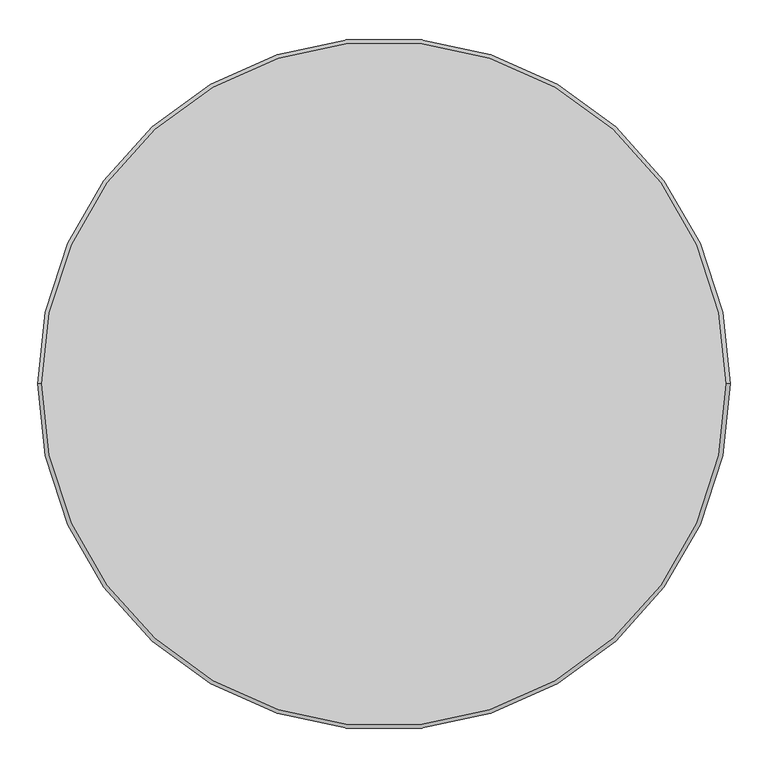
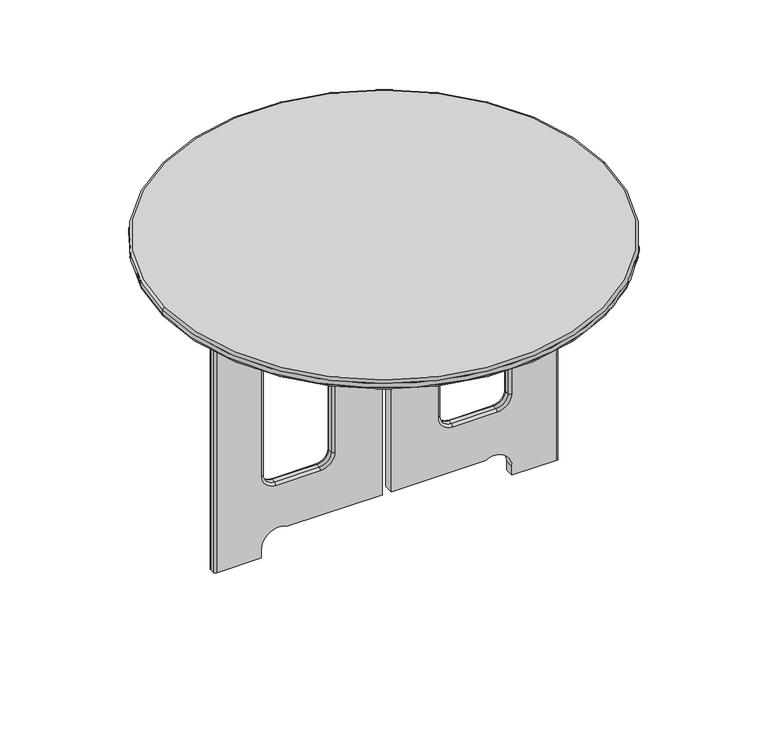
"""IFC4 building model written with IfcOpenShell, lengths in millimetres: furniture geometry, SSL-Childcraft_Outdoor-Table-Round : 2161364."""

from ifc_helpers import new_model, si_unit, point, frame, origin, origin_with_axes, place, context, project, spatial, polyline, circle_curve, ellipse_curve, trimmed, source, transform, mapped, element, save
from ifc_brep_helpers import plane_surface, cylinder_surface, revolved_surface, advanced_brep


def furniture_094c6500(model_context):
    return source(origin(), model_context, "Body", "AdvancedBrep", [
        advanced_brep(
        [(-350.8375, 9.525, 590.55), (-355.6, 4.7625, 590.55), (-355.6, -4.7625, 590.55), (-350.8375, -9.525, 590.55), (-285.7500064, -9.525, 590.55), (-285.7500064, 9.525, 590.55), (350.8375, -9.525, 590.55), (355.6, -4.7625, 590.55), (355.6, 4.7625, 590.55), (350.8375, 9.525, 590.55), (285.7499947, 9.525, 590.55), (285.7499947, -9.525, 590.55), (-350.8375, -9.525, 0.0), (-355.6, -4.7625, 0.0), (-355.6, 4.7625, 0.0), (-350.8375, 9.525, 0.0), (-258.7625, 9.525, 0.0), (-258.7625, -9.525, 0.0), (350.8375, 9.525, 0.0), (355.6, 4.7625, 0.0), (355.6, -4.7625, 0.0), (350.8375, -9.525, 0.0), (258.7625, -9.525, 0.0), (258.7625, 9.525, 0.0), (-266.6999968, 9.525, 571.499954), (266.7, 9.525, 571.499954), (258.7625, 9.525, 19.0499717), (204.219466, 9.525, 50.7999717), (9.525, 9.525, 50.7999717), (9.525, 9.525, 301.6249575), (-9.525, 9.525, 301.6249575), (-9.525, 9.525, 50.7999717), (-204.219466, 9.525, 50.7999717), (-258.7625, 9.525, 19.0499717), (-107.1562606, 9.525, 463.5499433), (-136.5250106, 9.525, 492.9186933), (-228.5873106, 9.525, 492.9186933), (-257.9687606, 9.525, 463.5372433), (-257.9687606, 9.525, 177.7999717), (-228.6000106, 9.525, 148.4312217), (-136.5250106, 9.525, 148.4312217), (-107.1562606, 9.525, 177.7999717), (257.9687606, 9.525, 463.5372433), (228.5873106, 9.525, 492.9186933), (136.5250106, 9.525, 492.9186933), (107.1562606, 9.525, 463.5499433), (107.1562606, 9.525, 177.7999717), (136.5250106, 9.525, 148.4312217), (228.6000106, 9.525, 148.4312217), (257.9687606, 9.525, 177.7999717), (-258.7625, -9.525, 19.0499717), (-204.219466, -9.525, 50.7999717), (-9.525, -9.525, 50.7999717), (-9.525, -9.525, 301.6249575), (9.525, -9.525, 301.6249575), (9.525, -9.525, 50.7999717), (204.219466, -9.525, 50.7999717), (258.7625, -9.525, 19.0499717), (266.7, -9.525, 571.499954), (-266.6999968, -9.525, 571.499954), (-136.5250106, -9.525, 492.9186933), (-107.1562606, -9.525, 463.5499433), (-107.1562606, -9.525, 177.7999717), (-136.5250106, -9.525, 148.4312217), (-228.6000106, -9.525, 148.4312217), (-257.9687606, -9.525, 177.7999717), (-257.9687606, -9.525, 463.5372433), (-228.5873106, -9.525, 492.9186933), (228.5873106, -9.525, 492.9186933), (257.9687606, -9.525, 463.5372433), (257.9687606, -9.525, 177.7999717), (228.6000106, -9.525, 148.4312217), (136.5250106, -9.525, 148.4312217), (107.1562606, -9.525, 177.7999717), (107.1562606, -9.525, 463.5499433), (136.5250106, -9.525, 492.9186933), (-111.9187606, 4.7625, 463.5499433), (-136.5250106, 4.7625, 488.1561933), (-111.9187606, -4.7625, 463.5499433), (-136.5250106, -4.7625, 488.1561933), (-111.9187606, 4.7625, 177.7999717), (-111.9187606, -4.7625, 177.7999717), (-136.5250106, 4.7625, 153.1937217), (-136.5250106, -4.7625, 153.1937217), (-228.6000106, 4.7625, 153.1937217), (-228.6000106, -4.7625, 153.1937217), (-253.2062606, 4.7625, 177.7999717), (-253.2062606, -4.7625, 177.7999717), (-253.2062606, 4.7625, 463.5372433), (-253.2062606, -4.7625, 463.5372433), (-228.5873106, 4.7625, 488.1561933), (-228.5873106, -4.7625, 488.1561933), (253.2062606, 4.7625, 463.5372433), (228.5873106, 4.7625, 488.1561933), (253.2062606, -4.7625, 463.5372433), (228.5873106, -4.7625, 488.1561933), (253.2062606, 4.7625, 177.7999717), (253.2062606, -4.7625, 177.7999717), (228.6000106, 4.7625, 153.1937217), (228.6000106, -4.7625, 153.1937217), (136.5250106, 4.7625, 153.1937217), (136.5250106, -4.7625, 153.1937217), (111.9187606, 4.7625, 177.7999717), (111.9187606, -4.7625, 177.7999717), (111.9187606, 4.7625, 463.5499433), (111.9187606, -4.7625, 463.5499433), (136.5250106, 4.7625, 488.1561933), (136.5250106, -4.7625, 488.1561933)],
        [
            (0, 1, circle_curve(frame((-350.8375, 4.7625, 590.55), z_axis=(0.0, 0.0, 1.0), x_axis=(1.0, 0.0, 0.0)), 4.7625)),
            (1, 2),
            (2, 3, circle_curve(frame((-350.8375, -4.7625, 590.55), z_axis=(0.0, 0.0, 1.0), x_axis=(1.0, 0.0, 0.0)), 4.7625)),
            (3, 4),
            (4, 5),
            (5, 0),
            (6, 7, circle_curve(frame((350.8375, -4.7625, 590.55), z_axis=(0.0, 0.0, 1.0), x_axis=(1.0, 0.0, 0.0)), 4.7625)),
            (7, 8),
            (8, 9, circle_curve(frame((350.8375, 4.7625, 590.55), z_axis=(0.0, 0.0, 1.0), x_axis=(1.0, 0.0, 0.0)), 4.7625)),
            (9, 10),
            (10, 11),
            (11, 6),
            (12, 13, circle_curve(frame((-350.8375, -4.7625, 0.0), z_axis=(0.0, 0.0, -1.0), x_axis=(1.0, 0.0, 0.0)), 4.7625)),
            (13, 14),
            (14, 15, circle_curve(frame((-350.8375, 4.7625, 0.0), z_axis=(0.0, 0.0, -1.0), x_axis=(1.0, 0.0, 0.0)), 4.7625)),
            (15, 16),
            (16, 17),
            (17, 12),
            (18, 19, circle_curve(frame((350.8375, 4.7625, 0.0), z_axis=(0.0, 0.0, -1.0), x_axis=(1.0, 0.0, 0.0)), 4.7625)),
            (19, 20),
            (20, 21, circle_curve(frame((350.8375, -4.7625, 0.0), z_axis=(0.0, 0.0, -1.0), x_axis=(1.0, 0.0, 0.0)), 4.7625)),
            (21, 22),
            (22, 23),
            (23, 18),
            (15, 0),
            (5, 24, circle_curve(frame((-266.6999968, 9.525, 590.5499636), z_axis=(0.0, -1.0, 0.0), x_axis=(1.0, 0.0, 0.0)), 19.0500096)),
            (24, 25),
            (25, 10, circle_curve(frame((266.7, 9.525, 590.5499487), z_axis=(0.0, -1.0, 0.0), x_axis=(1.0, 0.0, 0.0)), 19.0499947)),
            (9, 18),
            (23, 26),
            (26, 27, circle_curve(frame((222.25, 9.525, 19.0499717), z_axis=(0.0, -1.0, 0.0), x_axis=(1.0, 0.0, 0.0)), 36.5125)),
            (27, 28),
            (28, 29),
            (29, 30),
            (30, 31),
            (31, 32),
            (32, 33, circle_curve(frame((-222.25, 9.525, 19.0499717), z_axis=(0.0, -1.0, 0.0), x_axis=(1.0, 0.0, 0.0)), 36.5125)),
            (33, 16),
            (34, 35, circle_curve(frame((-136.5250106, 9.525, 463.5499433), z_axis=(0.0, -1.0, 0.0), x_axis=(0.0, 0.0, 1.0)), 29.36875)),
            (35, 36),
            (36, 37, circle_curve(frame((-228.5873106, 9.525, 463.5372433), z_axis=(0.0, -1.0, 0.0), x_axis=(-1.0, 0.0, 0.0)), 29.38145)),
            (37, 38),
            (38, 39, circle_curve(frame((-228.6000106, 9.525, 177.7999717), z_axis=(0.0, -1.0, 0.0), x_axis=(0.0, 0.0, -1.0)), 29.36875)),
            (39, 40),
            (40, 41, circle_curve(frame((-136.5250106, 9.525, 177.7999717), z_axis=(0.0, -1.0, 0.0), x_axis=(1.0, 0.0, 0.0)), 29.36875)),
            (41, 34),
            (42, 43, circle_curve(frame((228.5873106, 9.525, 463.5372433), z_axis=(0.0, -1.0, 0.0), x_axis=(0.0, 0.0, 1.0)), 29.38145)),
            (43, 44),
            (44, 45, circle_curve(frame((136.5250106, 9.525, 463.5499433), z_axis=(0.0, -1.0, 0.0), x_axis=(-1.0, 0.0, 0.0)), 29.36875)),
            (45, 46),
            (46, 47, circle_curve(frame((136.5250106, 9.525, 177.7999717), z_axis=(0.0, -1.0, 0.0), x_axis=(0.0, 0.0, -1.0)), 29.36875)),
            (47, 48),
            (48, 49, circle_curve(frame((228.6000106, 9.525, 177.7999717), z_axis=(0.0, -1.0, 0.0), x_axis=(1.0, 0.0, 0.0)), 29.36875)),
            (49, 42),
            (14, 1),
            (13, 2),
            (12, 3),
            (17, 50),
            (50, 51, circle_curve(frame((-222.25, -9.525, 19.0499717), z_axis=(0.0, 1.0, 0.0), x_axis=(1.0, 0.0, 0.0)), 36.5125)),
            (51, 52),
            (52, 53),
            (53, 54),
            (54, 55),
            (55, 56),
            (56, 57, circle_curve(frame((222.25, -9.525, 19.0499717), z_axis=(0.0, 1.0, 0.0), x_axis=(1.0, 0.0, 0.0)), 36.5125)),
            (57, 22),
            (21, 6),
            (11, 58, circle_curve(frame((266.7, -9.525, 590.5499487), z_axis=(0.0, 1.0, 0.0), x_axis=(1.0, 0.0, 0.0)), 19.0499947)),
            (58, 59),
            (59, 4, circle_curve(frame((-266.6999968, -9.525, 590.5499636), z_axis=(0.0, 1.0, 0.0), x_axis=(1.0, 0.0, 0.0)), 19.0500096)),
            (60, 61, circle_curve(frame((-136.5250106, -9.525, 463.5499433), z_axis=(0.0, 1.0, 0.0), x_axis=(0.0, 0.0, 1.0)), 29.36875)),
            (61, 62),
            (62, 63, circle_curve(frame((-136.5250106, -9.525, 177.7999717), z_axis=(0.0, 1.0, 0.0), x_axis=(1.0, 0.0, 0.0)), 29.36875)),
            (63, 64),
            (64, 65, circle_curve(frame((-228.6000106, -9.525, 177.7999717), z_axis=(0.0, 1.0, 0.0), x_axis=(0.0, 0.0, -1.0)), 29.36875)),
            (65, 66),
            (66, 67, circle_curve(frame((-228.5873106, -9.525, 463.5372433), z_axis=(0.0, 1.0, 0.0), x_axis=(-1.0, 0.0, 0.0)), 29.38145)),
            (67, 60),
            (68, 69, circle_curve(frame((228.5873106, -9.525, 463.5372433), z_axis=(0.0, 1.0, 0.0), x_axis=(0.0, 0.0, 1.0)), 29.38145)),
            (69, 70),
            (70, 71, circle_curve(frame((228.6000106, -9.525, 177.7999717), z_axis=(0.0, 1.0, 0.0), x_axis=(1.0, 0.0, 0.0)), 29.36875)),
            (71, 72),
            (72, 73, circle_curve(frame((136.5250106, -9.525, 177.7999717), z_axis=(0.0, 1.0, 0.0), x_axis=(0.0, 0.0, -1.0)), 29.36875)),
            (73, 74),
            (74, 75, circle_curve(frame((136.5250106, -9.525, 463.5499433), z_axis=(0.0, 1.0, 0.0), x_axis=(-1.0, 0.0, 0.0)), 29.36875)),
            (75, 68),
            (20, 7),
            (19, 8),
            (51, 32),
            (31, 52),
            (30, 53),
            (29, 54),
            (28, 55),
            (27, 56),
            (25, 58),
            (24, 59),
            (26, 57),
            (33, 50),
            (76, 77, circle_curve(frame((-136.5250106, 4.7625, 463.5499433), z_axis=(0.0, -1.0, 0.0), x_axis=(0.0, 0.0, 1.0)), 24.60625)),
            (77, 35, circle_curve(frame((-136.5250106, 4.7625, 492.9186933), z_axis=(1.0, 0.0, 0.0), x_axis=(0.0, 0.0, 1.0)), 4.7625)),
            (34, 76, circle_curve(frame((-107.1562606, 4.7625, 463.5499433), z_axis=(0.0, 0.0, 1.0), x_axis=(1.0, 0.0, 0.0)), 4.7625)),
            (76, 78),
            (78, 79, circle_curve(frame((-136.5250106, -4.7625, 463.5499433), z_axis=(0.0, -1.0, 0.0), x_axis=(0.0, 0.0, 1.0)), 24.60625)),
            (79, 77),
            (78, 61, circle_curve(frame((-107.1562606, -4.7625, 463.5499433), z_axis=(0.0, 0.0, 1.0), x_axis=(1.0, 0.0, 0.0)), 4.7625)),
            (60, 79, circle_curve(frame((-136.5250106, -4.7625, 492.9186933), z_axis=(1.0, 0.0, 0.0), x_axis=(0.0, 0.0, 1.0)), 4.7625)),
            (41, 80, circle_curve(frame((-107.1562606, 4.7625, 177.7999717), z_axis=(0.0, 0.0, 1.0), x_axis=(1.0, 0.0, 0.0)), 4.7625)),
            (80, 76),
            (80, 81),
            (81, 78),
            (81, 62, circle_curve(frame((-107.1562606, -4.7625, 177.7999717), z_axis=(0.0, 0.0, 1.0), x_axis=(1.0, 0.0, 0.0)), 4.7625)),
            (40, 82, circle_curve(frame((-136.5250106, 4.7625, 148.4312217), z_axis=(1.0, 0.0, 0.0), x_axis=(0.0, 0.0, -1.0)), 4.7625)),
            (82, 80, circle_curve(frame((-136.5250106, 4.7625, 177.7999717), z_axis=(0.0, -1.0, 0.0), x_axis=(1.0, 0.0, 0.0)), 24.60625)),
            (82, 83),
            (83, 81, circle_curve(frame((-136.5250106, -4.7625, 177.7999717), z_axis=(0.0, -1.0, 0.0), x_axis=(1.0, 0.0, 0.0)), 24.60625)),
            (83, 63, circle_curve(frame((-136.5250106, -4.7625, 148.4312217), z_axis=(1.0, 0.0, 0.0), x_axis=(0.0, 0.0, -1.0)), 4.7625)),
            (39, 84, circle_curve(frame((-228.6000106, 4.7625, 148.4312217), z_axis=(1.0, 0.0, 0.0), x_axis=(0.0, 0.0, -1.0)), 4.7625)),
            (84, 82),
            (84, 85),
            (85, 83),
            (85, 64, circle_curve(frame((-228.6000106, -4.7625, 148.4312217), z_axis=(1.0, 0.0, 0.0), x_axis=(0.0, 0.0, -1.0)), 4.7625)),
            (38, 86, circle_curve(frame((-257.9687606, 4.7625, 177.7999717), z_axis=(0.0, 0.0, -1.0), x_axis=(-1.0, 0.0, 0.0)), 4.7625)),
            (86, 84, circle_curve(frame((-228.6000106, 4.7625, 177.7999717), z_axis=(0.0, -1.0, 0.0), x_axis=(0.0, 0.0, -1.0)), 24.60625)),
            (86, 87),
            (87, 85, circle_curve(frame((-228.6000106, -4.7625, 177.7999717), z_axis=(0.0, -1.0, 0.0), x_axis=(0.0, 0.0, -1.0)), 24.60625)),
            (87, 65, circle_curve(frame((-257.9687606, -4.7625, 177.7999717), z_axis=(0.0, 0.0, -1.0), x_axis=(-1.0, 0.0, 0.0)), 4.7625)),
            (37, 88, circle_curve(frame((-257.9687606, 4.7625, 463.5372433), z_axis=(0.0, 0.0, -1.0), x_axis=(-1.0, 0.0, 0.0)), 4.7625)),
            (88, 86),
            (88, 89),
            (89, 87),
            (89, 66, circle_curve(frame((-257.9687606, -4.7625, 463.5372433), z_axis=(0.0, 0.0, -1.0), x_axis=(-1.0, 0.0, 0.0)), 4.7625)),
            (36, 90, circle_curve(frame((-228.5873106, 4.7625, 492.9186933), z_axis=(-1.0, 0.0, 0.0), x_axis=(0.0, 0.0, 1.0)), 4.7625)),
            (90, 88, circle_curve(frame((-228.5873106, 4.7625, 463.5372433), z_axis=(0.0, -1.0, 0.0), x_axis=(-1.0, 0.0, 0.0)), 24.61895)),
            (90, 91),
            (91, 89, circle_curve(frame((-228.5873106, -4.7625, 463.5372433), z_axis=(0.0, -1.0, 0.0), x_axis=(-1.0, 0.0, 0.0)), 24.61895)),
            (91, 67, circle_curve(frame((-228.5873106, -4.7625, 492.9186933), z_axis=(-1.0, 0.0, 0.0), x_axis=(0.0, 0.0, 1.0)), 4.7625)),
            (77, 90),
            (79, 91),
            (92, 93, circle_curve(frame((228.5873106, 4.7625, 463.5372433), z_axis=(0.0, -1.0, 0.0), x_axis=(0.0, 0.0, 1.0)), 24.61895)),
            (93, 43, circle_curve(frame((228.5873106, 4.7625, 492.9186933), z_axis=(1.0, 0.0, 0.0), x_axis=(0.0, 0.0, 1.0)), 4.7625)),
            (42, 92, circle_curve(frame((257.9687606, 4.7625, 463.5372433), z_axis=(0.0, 0.0, 1.0), x_axis=(1.0, 0.0, 0.0)), 4.7625)),
            (92, 94),
            (94, 95, circle_curve(frame((228.5873106, -4.7625, 463.5372433), z_axis=(0.0, -1.0, 0.0), x_axis=(0.0, 0.0, 1.0)), 24.61895)),
            (95, 93),
            (94, 69, circle_curve(frame((257.9687606, -4.7625, 463.5372433), z_axis=(0.0, 0.0, 1.0), x_axis=(1.0, 0.0, 0.0)), 4.7625)),
            (68, 95, circle_curve(frame((228.5873106, -4.7625, 492.9186933), z_axis=(1.0, 0.0, 0.0), x_axis=(0.0, 0.0, 1.0)), 4.7625)),
            (49, 96, circle_curve(frame((257.9687606, 4.7625, 177.7999717), z_axis=(0.0, 0.0, 1.0), x_axis=(1.0, 0.0, 0.0)), 4.7625)),
            (96, 92),
            (96, 97),
            (97, 94),
            (97, 70, circle_curve(frame((257.9687606, -4.7625, 177.7999717), z_axis=(0.0, 0.0, 1.0), x_axis=(1.0, 0.0, 0.0)), 4.7625)),
            (48, 98, circle_curve(frame((228.6000106, 4.7625, 148.4312217), z_axis=(1.0, 0.0, 0.0), x_axis=(0.0, 0.0, -1.0)), 4.7625)),
            (98, 96, circle_curve(frame((228.6000106, 4.7625, 177.7999717), z_axis=(0.0, -1.0, 0.0), x_axis=(1.0, 0.0, 0.0)), 24.60625)),
            (98, 99),
            (99, 97, circle_curve(frame((228.6000106, -4.7625, 177.7999717), z_axis=(0.0, -1.0, 0.0), x_axis=(1.0, 0.0, 0.0)), 24.60625)),
            (99, 71, circle_curve(frame((228.6000106, -4.7625, 148.4312217), z_axis=(1.0, 0.0, 0.0), x_axis=(0.0, 0.0, -1.0)), 4.7625)),
            (47, 100, circle_curve(frame((136.5250106, 4.7625, 148.4312217), z_axis=(1.0, 0.0, 0.0), x_axis=(0.0, 0.0, -1.0)), 4.7625)),
            (100, 98),
            (100, 101),
            (101, 99),
            (101, 72, circle_curve(frame((136.5250106, -4.7625, 148.4312217), z_axis=(1.0, 0.0, 0.0), x_axis=(0.0, 0.0, -1.0)), 4.7625)),
            (46, 102, circle_curve(frame((107.1562606, 4.7625, 177.7999717), z_axis=(0.0, 0.0, -1.0), x_axis=(-1.0, 0.0, 0.0)), 4.7625)),
            (102, 100, circle_curve(frame((136.5250106, 4.7625, 177.7999717), z_axis=(0.0, -1.0, 0.0), x_axis=(0.0, 0.0, -1.0)), 24.60625)),
            (102, 103),
            (103, 101, circle_curve(frame((136.5250106, -4.7625, 177.7999717), z_axis=(0.0, -1.0, 0.0), x_axis=(0.0, 0.0, -1.0)), 24.60625)),
            (103, 73, circle_curve(frame((107.1562606, -4.7625, 177.7999717), z_axis=(0.0, 0.0, -1.0), x_axis=(-1.0, 0.0, 0.0)), 4.7625)),
            (45, 104, circle_curve(frame((107.1562606, 4.7625, 463.5499433), z_axis=(0.0, 0.0, -1.0), x_axis=(-1.0, 0.0, 0.0)), 4.7625)),
            (104, 102),
            (104, 105),
            (105, 103),
            (105, 74, circle_curve(frame((107.1562606, -4.7625, 463.5499433), z_axis=(0.0, 0.0, -1.0), x_axis=(-1.0, 0.0, 0.0)), 4.7625)),
            (44, 106, circle_curve(frame((136.5250106, 4.7625, 492.9186933), z_axis=(-1.0, 0.0, 0.0), x_axis=(0.0, 0.0, 1.0)), 4.7625)),
            (106, 104, circle_curve(frame((136.5250106, 4.7625, 463.5499433), z_axis=(0.0, -1.0, 0.0), x_axis=(-1.0, 0.0, 0.0)), 24.60625)),
            (106, 107),
            (107, 105, circle_curve(frame((136.5250106, -4.7625, 463.5499433), z_axis=(0.0, -1.0, 0.0), x_axis=(-1.0, 0.0, 0.0)), 24.60625)),
            (107, 75, circle_curve(frame((136.5250106, -4.7625, 492.9186933), z_axis=(-1.0, 0.0, 0.0), x_axis=(0.0, 0.0, 1.0)), 4.7625)),
            (93, 106),
            (95, 107),
        ],
        [
            plane_surface(frame((-350.8375, 9.525, 590.55), z_axis=(0.0, 0.0, 1.0), x_axis=(-1.0, 0.0, 0.0))),
            plane_surface(frame((-350.8375, 9.525, 0.0), z_axis=(0.0, 0.0, -1.0), x_axis=(1.0, 0.0, 0.0))),
            plane_surface(frame((-350.04375, 9.525, 590.55), z_axis=(0.0, 1.0, 0.0), x_axis=(0.0, 0.0, -1.0))),
            cylinder_surface(frame((-350.8375, 4.7625, 0.0), z_axis=(0.0, 0.0, 1.0), x_axis=(1.0, 0.0, 0.0)), 4.7625),
            plane_surface(frame((-355.6, 4.7625, 590.55), z_axis=(-1.0, 0.0, 0.0), x_axis=(0.0, 0.0, -1.0))),
            cylinder_surface(frame((-350.8375, -4.7625, 0.0), z_axis=(0.0, 0.0, 1.0), x_axis=(1.0, 0.0, 0.0)), 4.7625),
            plane_surface(frame((-350.8375, -9.525, 590.55), z_axis=(0.0, -1.0, 0.0), x_axis=(0.0, 0.0, -1.0))),
            cylinder_surface(frame((350.8375, -4.7625, 0.0), z_axis=(0.0, 0.0, 1.0), x_axis=(1.0, 0.0, 0.0)), 4.7625),
            plane_surface(frame((355.6, -4.7625, 590.55), z_axis=(1.0, 0.0, 0.0), x_axis=(0.0, 0.0, -1.0))),
            cylinder_surface(frame((350.8375, 4.7625, 0.0), z_axis=(0.0, 0.0, 1.0), x_axis=(1.0, 0.0, 0.0)), 4.7625),
            plane_surface(frame((-204.219466, -9.525, 50.7999717), z_axis=(0.0, 0.0, -1.0), x_axis=(0.0, 1.0, 0.0))),
            plane_surface(frame((-9.525, -9.525, 50.7999717), z_axis=(1.0, 0.0, 0.0), x_axis=(0.0, 1.0, 0.0))),
            plane_surface(frame((-9.525, -9.525, 301.6249575), z_axis=(0.0, 0.0, -1.0), x_axis=(0.0, 1.0, 0.0))),
            plane_surface(frame((9.525, -9.525, 301.6249575), z_axis=(-1.0, 0.0, 0.0), x_axis=(0.0, 1.0, 0.0))),
            plane_surface(frame((9.525, -9.525, 50.7999717), z_axis=(0.0, 0.0, -1.0), x_axis=(0.0, 1.0, 0.0))),
            revolved_surface(polyline([(285.7499947, 9.525, 590.5499487), (285.7499947, -9.525, 590.5499487)]), (266.7, 9.525, 590.5499487), (0.0, 1.0, 0.0)),
            plane_surface(frame((266.7, -9.525, 571.499954), z_axis=(0.0, 0.0, 1.0), x_axis=(0.0, 1.0, 0.0))),
            revolved_surface(polyline([(-247.6499872, 9.525, 590.5499636), (-247.6499872, -9.525, 590.5499636)]), (-266.6999968, 9.525, 590.5499636), (0.0, 1.0, 0.0)),
            revolved_surface(polyline([(258.7625, 9.525, 19.0499717), (258.7625, -9.525, 19.0499717)]), (222.25, 9.525, 19.0499717), (0.0, 1.0, 0.0)),
            plane_surface(frame((258.7625, -9.525, 19.0499717), z_axis=(-1.0, 0.0, -1.3837485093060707e-10), x_axis=(0.0, 1.0, 0.0))),
            plane_surface(frame((-258.7625, -9.525, 0.0), z_axis=(1.0, 0.0, 0.0), x_axis=(0.0, 1.0, 0.0))),
            revolved_surface(polyline([(-185.7375, 9.525, 19.0499717), (-185.7375, -9.525, 19.0499717)]), (-222.25, 9.525, 19.0499717), (0.0, 1.0, 0.0)),
            revolved_surface(trimmed(ellipse_curve(frame((-136.5250106, 4.7625, 492.9186933), z_axis=(-1.0, 0.0, 0.0), x_axis=(0.0, 0.0, 1.0)), 4.7625, 4.7625), [point((-136.5250106, 9.525, 492.9186933))], [point((-136.5250106, 4.7625, 488.1561933))], True, "CARTESIAN"), (-136.5250106, 0.0, 463.5499433), (0.0, 1.0, 0.0)),
            revolved_surface(polyline([(-136.5250106, 4.7625, 488.1561933), (-136.5250106, -4.7625, 488.1561933)]), (-136.5250106, 0.0, 463.5499433), (0.0, 1.0, 0.0)),
            revolved_surface(trimmed(ellipse_curve(frame((-136.5250106, -4.7625, 492.9186933), z_axis=(-1.0, 0.0, 0.0), x_axis=(0.0, 0.0, 1.0)), 4.7625, 4.7625), [point((-136.5250106, -4.7625, 488.1561933))], [point((-136.5250106, -9.525, 492.9186933))], True, "CARTESIAN"), (-136.5250106, 0.0, 463.5499433), (0.0, 1.0, 0.0)),
            cylinder_surface(frame((-107.1562606, 4.7625, 463.5499433), z_axis=(0.0, 0.0, 1.0), x_axis=(1.0, 0.0, 0.0)), 4.7625),
            plane_surface(frame((-111.9187606, 4.7625, 463.5499433), z_axis=(-1.0, 0.0, 0.0), x_axis=(0.0, 0.0, -1.0))),
            cylinder_surface(frame((-107.1562606, -4.7625, 463.5499433), z_axis=(0.0, 0.0, 1.0), x_axis=(1.0, 0.0, 0.0)), 4.7625),
            revolved_surface(trimmed(ellipse_curve(frame((-107.1562606, 4.7625, 177.7999717), z_axis=(0.0, 0.0, 1.0), x_axis=(1.0, 0.0, 0.0)), 4.7625, 4.7625), [point((-107.1562606, 9.525, 177.7999717))], [point((-111.9187606, 4.7625, 177.7999717))], True, "CARTESIAN"), (-136.5250106, 0.0, 177.7999717), (0.0, 1.0, 0.0)),
            revolved_surface(polyline([(-111.9187606, 4.7625, 177.7999717), (-111.9187606, -4.7625, 177.7999717)]), (-136.5250106, 0.0, 177.7999717), (0.0, 1.0, 0.0)),
            revolved_surface(trimmed(ellipse_curve(frame((-107.1562606, -4.7625, 177.7999717), z_axis=(0.0, 0.0, 1.0), x_axis=(1.0, 0.0, 0.0)), 4.7625, 4.7625), [point((-111.9187606, -4.7625, 177.7999717))], [point((-107.1562606, -9.525, 177.7999717))], True, "CARTESIAN"), (-136.5250106, 0.0, 177.7999717), (0.0, 1.0, 0.0)),
            cylinder_surface(frame((-136.5250106, 4.7625, 148.4312217), z_axis=(1.0, 0.0, 0.0), x_axis=(0.0, 0.0, -1.0)), 4.7625),
            plane_surface(frame((-136.5250106, 4.7625, 153.1937217), z_axis=(0.0, 0.0, 1.0), x_axis=(-1.0, 0.0, 0.0))),
            cylinder_surface(frame((-136.5250106, -4.7625, 148.4312217), z_axis=(1.0, 0.0, 0.0), x_axis=(0.0, 0.0, -1.0)), 4.7625),
            revolved_surface(trimmed(ellipse_curve(frame((-228.6000106, 4.7625, 148.4312217), z_axis=(1.0, 0.0, 0.0), x_axis=(0.0, 0.0, -1.0)), 4.7625, 4.7625), [point((-228.6000106, 9.525, 148.4312217))], [point((-228.6000106, 4.7625, 153.1937217))], True, "CARTESIAN"), (-228.6000106, 0.0, 177.7999717), (0.0, 1.0, 0.0)),
            revolved_surface(polyline([(-228.6000106, 4.7625, 153.1937217), (-228.6000106, -4.7625, 153.1937217)]), (-228.6000106, 0.0, 177.7999717), (0.0, 1.0, 0.0)),
            revolved_surface(trimmed(ellipse_curve(frame((-228.6000106, -4.7625, 148.4312217), z_axis=(1.0, 0.0, 0.0), x_axis=(0.0, 0.0, -1.0)), 4.7625, 4.7625), [point((-228.6000106, -4.7625, 153.1937217))], [point((-228.6000106, -9.525, 148.4312217))], True, "CARTESIAN"), (-228.6000106, 0.0, 177.7999717), (0.0, 1.0, 0.0)),
            cylinder_surface(frame((-257.9687606, 4.7625, 177.7999717), z_axis=(0.0, 0.0, -1.0), x_axis=(-1.0, 0.0, 0.0)), 4.7625),
            plane_surface(frame((-253.2062606, 4.7625, 177.7999717), z_axis=(1.0, 0.0, 0.0), x_axis=(0.0, 0.0, 1.0))),
            cylinder_surface(frame((-257.9687606, -4.7625, 177.7999717), z_axis=(0.0, 0.0, -1.0), x_axis=(-1.0, 0.0, 0.0)), 4.7625),
            revolved_surface(trimmed(ellipse_curve(frame((-257.9687606, 4.7625, 463.5372433), z_axis=(0.0, 0.0, -1.0), x_axis=(-1.0, 0.0, 0.0)), 4.7625, 4.7625), [point((-257.9687606, 9.525, 463.5372433))], [point((-253.2062606, 4.7625, 463.5372433))], True, "CARTESIAN"), (-228.5873106, 0.0, 463.5372433), (0.0, 1.0, 0.0)),
            revolved_surface(polyline([(-253.2062606, 4.7625, 463.5372433), (-253.2062606, -4.7625, 463.5372433)]), (-228.5873106, 0.0, 463.5372433), (0.0, 1.0, 0.0)),
            revolved_surface(trimmed(ellipse_curve(frame((-257.9687606, -4.7625, 463.5372433), z_axis=(0.0, 0.0, -1.0), x_axis=(-1.0, 0.0, 0.0)), 4.7625, 4.7625), [point((-253.2062606, -4.7625, 463.5372433))], [point((-257.9687606, -9.525, 463.5372433))], True, "CARTESIAN"), (-228.5873106, 0.0, 463.5372433), (0.0, 1.0, 0.0)),
            cylinder_surface(frame((-228.5873106, 4.7625, 492.9186933), z_axis=(-1.0, 0.0, 0.0), x_axis=(0.0, 0.0, 1.0)), 4.7625),
            plane_surface(frame((-228.5873106, 4.7625, 488.1561933), z_axis=(0.0, 0.0, -1.0), x_axis=(1.0, 0.0, 0.0))),
            cylinder_surface(frame((-228.5873106, -4.7625, 492.9186933), z_axis=(-1.0, 0.0, 0.0), x_axis=(0.0, 0.0, 1.0)), 4.7625),
            revolved_surface(trimmed(ellipse_curve(frame((228.5873106, 4.7625, 492.9186933), z_axis=(-1.0, 0.0, 0.0), x_axis=(0.0, 0.0, 1.0)), 4.7625, 4.7625), [point((228.5873106, 9.525, 492.9186933))], [point((228.5873106, 4.7625, 488.1561933))], True, "CARTESIAN"), (228.5873106, 0.0, 463.5372433), (0.0, 1.0, 0.0)),
            revolved_surface(polyline([(228.5873106, 4.7625, 488.1561933), (228.5873106, -4.7625, 488.1561933)]), (228.5873106, 0.0, 463.5372433), (0.0, 1.0, 0.0)),
            revolved_surface(trimmed(ellipse_curve(frame((228.5873106, -4.7625, 492.9186933), z_axis=(-1.0, 0.0, 0.0), x_axis=(0.0, 0.0, 1.0)), 4.7625, 4.7625), [point((228.5873106, -4.7625, 488.1561933))], [point((228.5873106, -9.525, 492.9186933))], True, "CARTESIAN"), (228.5873106, 0.0, 463.5372433), (0.0, 1.0, 0.0)),
            cylinder_surface(frame((257.9687606, 4.7625, 463.5372433), z_axis=(0.0, 0.0, 1.0), x_axis=(1.0, 0.0, 0.0)), 4.7625),
            plane_surface(frame((253.2062606, 4.7625, 463.5372433), z_axis=(-1.0, 0.0, 0.0), x_axis=(0.0, 0.0, -1.0))),
            cylinder_surface(frame((257.9687606, -4.7625, 463.5372433), z_axis=(0.0, 0.0, 1.0), x_axis=(1.0, 0.0, 0.0)), 4.7625),
            revolved_surface(trimmed(ellipse_curve(frame((257.9687606, 4.7625, 177.7999717), z_axis=(0.0, 0.0, 1.0), x_axis=(1.0, 0.0, 0.0)), 4.7625, 4.7625), [point((257.9687606, 9.525, 177.7999717))], [point((253.2062606, 4.7625, 177.7999717))], True, "CARTESIAN"), (228.6000106, 0.0, 177.7999717), (0.0, 1.0, 0.0)),
            revolved_surface(polyline([(253.20626059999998, 4.7625, 177.7999717), (253.20626059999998, -4.7625, 177.7999717)]), (228.6000106, 0.0, 177.7999717), (0.0, 1.0, 0.0)),
            revolved_surface(trimmed(ellipse_curve(frame((257.9687606, -4.7625, 177.7999717), z_axis=(0.0, 0.0, 1.0), x_axis=(1.0, 0.0, 0.0)), 4.7625, 4.7625), [point((253.2062606, -4.7625, 177.7999717))], [point((257.9687606, -9.525, 177.7999717))], True, "CARTESIAN"), (228.6000106, 0.0, 177.7999717), (0.0, 1.0, 0.0)),
            cylinder_surface(frame((228.6000106, 4.7625, 148.4312217), z_axis=(1.0, 0.0, 0.0), x_axis=(0.0, 0.0, -1.0)), 4.7625),
            plane_surface(frame((228.6000106, 4.7625, 153.1937217), z_axis=(0.0, 0.0, 1.0), x_axis=(-1.0, 0.0, 0.0))),
            cylinder_surface(frame((228.6000106, -4.7625, 148.4312217), z_axis=(1.0, 0.0, 0.0), x_axis=(0.0, 0.0, -1.0)), 4.7625),
            revolved_surface(trimmed(ellipse_curve(frame((136.5250106, 4.7625, 148.4312217), z_axis=(1.0, 0.0, 0.0), x_axis=(0.0, 0.0, -1.0)), 4.7625, 4.7625), [point((136.5250106, 9.525, 148.4312217))], [point((136.5250106, 4.7625, 153.1937217))], True, "CARTESIAN"), (136.5250106, 0.0, 177.7999717), (0.0, 1.0, 0.0)),
            revolved_surface(polyline([(136.5250106, 4.7625, 153.1937217), (136.5250106, -4.7625, 153.1937217)]), (136.5250106, 0.0, 177.7999717), (0.0, 1.0, 0.0)),
            revolved_surface(trimmed(ellipse_curve(frame((136.5250106, -4.7625, 148.4312217), z_axis=(1.0, 0.0, 0.0), x_axis=(0.0, 0.0, -1.0)), 4.7625, 4.7625), [point((136.5250106, -4.7625, 153.1937217))], [point((136.5250106, -9.525, 148.4312217))], True, "CARTESIAN"), (136.5250106, 0.0, 177.7999717), (0.0, 1.0, 0.0)),
            cylinder_surface(frame((107.1562606, 4.7625, 177.7999717), z_axis=(0.0, 0.0, -1.0), x_axis=(-1.0, 0.0, 0.0)), 4.7625),
            plane_surface(frame((111.9187606, 4.7625, 177.7999717), z_axis=(1.0, 0.0, 0.0), x_axis=(0.0, 0.0, 1.0))),
            cylinder_surface(frame((107.1562606, -4.7625, 177.7999717), z_axis=(0.0, 0.0, -1.0), x_axis=(-1.0, 0.0, 0.0)), 4.7625),
            revolved_surface(trimmed(ellipse_curve(frame((107.1562606, 4.7625, 463.5499433), z_axis=(0.0, 0.0, -1.0), x_axis=(-1.0, 0.0, 0.0)), 4.7625, 4.7625), [point((107.1562606, 9.525, 463.5499433))], [point((111.9187606, 4.7625, 463.5499433))], True, "CARTESIAN"), (136.5250106, 0.0, 463.5499433), (0.0, 1.0, 0.0)),
            revolved_surface(polyline([(111.9187606, 4.7625, 463.5499433), (111.9187606, -4.7625, 463.5499433)]), (136.5250106, 0.0, 463.5499433), (0.0, 1.0, 0.0)),
            revolved_surface(trimmed(ellipse_curve(frame((107.1562606, -4.7625, 463.5499433), z_axis=(0.0, 0.0, -1.0), x_axis=(-1.0, 0.0, 0.0)), 4.7625, 4.7625), [point((111.9187606, -4.7625, 463.5499433))], [point((107.1562606, -9.525, 463.5499433))], True, "CARTESIAN"), (136.5250106, 0.0, 463.5499433), (0.0, 1.0, 0.0)),
            cylinder_surface(frame((136.5250106, 4.7625, 492.9186933), z_axis=(-1.0, 0.0, 0.0), x_axis=(0.0, 0.0, 1.0)), 4.7625),
            plane_surface(frame((136.5250106, 4.7625, 488.1561933), z_axis=(0.0, 0.0, -1.0), x_axis=(1.0, 0.0, 0.0))),
            cylinder_surface(frame((136.5250106, -4.7625, 492.9186933), z_axis=(-1.0, 0.0, 0.0), x_axis=(0.0, 0.0, 1.0)), 4.7625),
        ],
        [
            (0, [[1, 2, 3, 4, 5, 6]]),
            (0, [[7, 8, 9, 10, 11, 12]]),
            (1, [[13, 14, 15, 16, 17, 18]]),
            (1, [[19, 20, 21, 22, 23, 24]]),
            (2, [[25, -6, 26, 27, 28, -10, 29, -24, 30, 31, 32, 33, 34, 35, 36, 37, 38, -16], [39, 40, 41, 42, 43, 44, 45, 46], [47, 48, 49, 50, 51, 52, 53, 54]]),
            (3, [[-1, -25, -15, 55]]),
            (4, [[-2, -55, -14, 56]]),
            (5, [[-3, -56, -13, 57]]),
            (6, [[-57, -18, 58, 59, 60, 61, 62, 63, 64, 65, 66, -22, 67, -12, 68, 69, 70, -4], [71, 72, 73, 74, 75, 76, 77, 78], [79, 80, 81, 82, 83, 84, 85, 86]]),
            (7, [[-7, -67, -21, 87]]),
            (8, [[-8, -87, -20, 88]]),
            (9, [[-9, -88, -19, -29]]),
            (10, [[-60, 89, -36, 90]]),
            (11, [[-61, -90, -35, 91]]),
            (12, [[-62, -91, -34, 92]]),
            (13, [[-63, -92, -33, 93]]),
            (14, [[-64, -93, -32, 94]]),
            (15, [[-68, -11, -28, 95]]),
            (16, [[-69, -95, -27, 96]]),
            (17, [[-70, -96, -26, -5]]),
            (18, [[-65, -94, -31, 97]]),
            (19, [[-66, -97, -30, -23]]),
            (20, [[-58, -17, -38, 98]]),
            (21, [[-59, -98, -37, -89]]),
            (22, [[99, 100, -39, 101]]),
            (23, [[-99, 102, 103, 104]]),
            (24, [[-103, 105, -71, 106]]),
            (25, [[-101, -46, 107, 108]]),
            (26, [[-102, -108, 109, 110]]),
            (27, [[-105, -110, 111, -72]]),
            (28, [[-107, -45, 112, 113]]),
            (29, [[-109, -113, 114, 115]]),
            (30, [[-111, -115, 116, -73]]),
            (31, [[-112, -44, 117, 118]]),
            (32, [[-114, -118, 119, 120]]),
            (33, [[-116, -120, 121, -74]]),
            (34, [[-117, -43, 122, 123]]),
            (35, [[-119, -123, 124, 125]]),
            (36, [[-121, -125, 126, -75]]),
            (37, [[-122, -42, 127, 128]]),
            (38, [[-124, -128, 129, 130]]),
            (39, [[-126, -130, 131, -76]]),
            (40, [[-127, -41, 132, 133]]),
            (41, [[-129, -133, 134, 135]]),
            (42, [[-131, -135, 136, -77]]),
            (43, [[-100, 137, -132, -40]]),
            (44, [[-104, 138, -134, -137]]),
            (45, [[-106, -78, -136, -138]]),
            (46, [[139, 140, -47, 141]]),
            (47, [[-139, 142, 143, 144]]),
            (48, [[-143, 145, -79, 146]]),
            (49, [[-141, -54, 147, 148]]),
            (50, [[-142, -148, 149, 150]]),
            (51, [[-145, -150, 151, -80]]),
            (52, [[-147, -53, 152, 153]]),
            (53, [[-149, -153, 154, 155]]),
            (54, [[-151, -155, 156, -81]]),
            (55, [[-152, -52, 157, 158]]),
            (56, [[-154, -158, 159, 160]]),
            (57, [[-156, -160, 161, -82]]),
            (58, [[-157, -51, 162, 163]]),
            (59, [[-159, -163, 164, 165]]),
            (60, [[-161, -165, 166, -83]]),
            (61, [[-162, -50, 167, 168]]),
            (62, [[-164, -168, 169, 170]]),
            (63, [[-166, -170, 171, -84]]),
            (64, [[-167, -49, 172, 173]]),
            (65, [[-169, -173, 174, 175]]),
            (66, [[-171, -175, 176, -85]]),
            (67, [[-140, 177, -172, -48]]),
            (68, [[-144, 178, -174, -177]]),
            (69, [[-146, -86, -176, -178]]),
        ],
    ),
        advanced_brep(
        [(457.2, 0.0, 595.3252), (-457.2, 0.0, 595.3252), (-452.4248, 0.0, 590.55), (452.4248, 0.0, 590.55), (457.2, 0.0, 604.8553465), (-457.2, 0.0, 604.8553465), (452.4553465, 0.0, 609.6), (-452.4553465, 0.0, 609.6)],
        [
            (0, 1, circle_curve(frame((0.0, 0.0, 595.3252), z_axis=(0.0, 0.0, -1.0), x_axis=(-1.0, 0.0, 0.0)), 457.2)),
            (1, 2, circle_curve(frame((-452.4248, 0.0, 595.3252), z_axis=(0.0, -1.0, 0.0), x_axis=(1.0, 0.0, 0.0)), 4.7752)),
            (2, 3, circle_curve(frame((0.0, 0.0, 590.55), z_axis=(0.0, 0.0, 1.0), x_axis=(-1.0, 0.0, 0.0)), 452.4248)),
            (3, 0, circle_curve(frame((452.4248, 0.0, 595.3252), z_axis=(0.0, -1.0, 0.0), x_axis=(-1.0, 0.0, 0.0)), 4.7752)),
            (0, 4),
            (4, 5, circle_curve(frame((0.0, 0.0, 604.8553465), z_axis=(0.0, 0.0, -1.0), x_axis=(-1.0, 0.0, 0.0)), 457.2)),
            (5, 1),
            (4, 6, circle_curve(frame((452.4553465, 0.0, 604.8553465), z_axis=(0.0, -1.0, 0.0), x_axis=(-1.0, 0.0, 0.0)), 4.7446535)),
            (6, 7, circle_curve(frame((0.0, 0.0, 609.6), z_axis=(0.0, 0.0, -1.0), x_axis=(-1.0, 0.0, 0.0)), 452.4553465)),
            (7, 5, circle_curve(frame((-452.4553465, 0.0, 604.8553465), z_axis=(0.0, -1.0, 0.0), x_axis=(1.0, 0.0, 0.0)), 4.7446535)),
            (2, 3, circle_curve(frame((0.0, 0.0, 590.55), z_axis=(0.0, 0.0, -1.0), x_axis=(1.0, 0.0, 0.0)), 452.4248)),
            (1, 0, circle_curve(frame((0.0, 0.0, 595.3252), z_axis=(0.0, 0.0, -1.0), x_axis=(1.0, 0.0, 0.0)), 457.2)),
            (5, 4, circle_curve(frame((0.0, 0.0, 604.8553465), z_axis=(0.0, 0.0, -1.0), x_axis=(1.0, 0.0, 0.0)), 457.2)),
            (7, 6, circle_curve(frame((0.0, 0.0, 609.6), z_axis=(0.0, 0.0, -1.0), x_axis=(1.0, 0.0, 0.0)), 452.4553465)),
        ],
        [
            revolved_surface(trimmed(ellipse_curve(frame((-452.4248, 0.0, 595.3252), z_axis=(0.0, 1.0, 0.0), x_axis=(1.0, 0.0, 0.0)), 4.7752, 4.7752), [point((-452.4248, 0.0, 590.55))], [point((-457.2, 0.0, 595.3252))], True, "CARTESIAN"), (0.0, 0.0, 0.0), (0.0, 0.0, 1.0)),
            cylinder_surface(frame((0.0, 0.0, 0.0), z_axis=(0.0, 0.0, 1.0), x_axis=(-1.0, 0.0, 0.0)), 457.2),
            revolved_surface(trimmed(ellipse_curve(frame((-452.4553465, 0.0, 604.8553465), z_axis=(0.0, 1.0, 0.0), x_axis=(1.0, 0.0, 0.0)), 4.7446535, 4.7446535), [point((-457.2, 0.0, 604.8553465))], [point((-452.4553465, 0.0, 609.6))], True, "CARTESIAN"), (0.0, 0.0, 0.0), (0.0, 0.0, 1.0)),
            plane_surface(frame((0.0, 0.0, 590.55), z_axis=(0.0, 0.0, -1.0), x_axis=(1.0, 0.0, 0.0))),
            revolved_surface(trimmed(ellipse_curve(frame((452.4248, 0.0, 595.3252), z_axis=(0.0, -1.0, 0.0), x_axis=(-1.0, 0.0, 0.0)), 4.7752, 4.7752), [point((452.4248, 0.0, 590.55))], [point((457.2, 0.0, 595.3252))], True, "CARTESIAN"), (0.0, 0.0, 0.0), (0.0, 0.0, 1.0)),
            cylinder_surface(origin_with_axes(), 457.2),
            revolved_surface(trimmed(ellipse_curve(frame((452.4553465, 0.0, 604.8553465), z_axis=(0.0, -1.0, 0.0), x_axis=(-1.0, 0.0, 0.0)), 4.7446535, 4.7446535), [point((457.2, 0.0, 604.8553465))], [point((452.4553465, 0.0, 609.6))], True, "CARTESIAN"), (0.0, 0.0, 0.0), (0.0, 0.0, 1.0)),
            plane_surface(frame((0.0, 0.0, 609.6), z_axis=(0.0, 0.0, 1.0), x_axis=(1.0, 0.0, 0.0))),
        ],
        [
            (0, [[1, 2, 3, 4]]),
            (1, [[-1, 5, 6, 7]]),
            (2, [[-6, 8, 9, 10]]),
            (3, [[-3, 11]]),
            (4, [[-2, 12, -4, -11]]),
            (5, [[-7, 13, -5, -12]]),
            (6, [[-10, 14, -8, -13]]),
            (7, [[-9, -14]]),
        ],
    ),
    ])


if __name__ == "__main__":
    model = new_model("IFC4")
    model_context = context("Model", 3, world=origin())
    ifc_project = project(units=[si_unit("LENGTHUNIT", "METRE", prefix="MILLI")], contexts=[model_context])
    site = spatial("IfcSite", under=ifc_project)
    building = spatial("IfcBuilding", under=site)
    placement = place(None, origin())
    furniture_shape = furniture_094c6500(model_context)
    element("IfcFurniture", 1, ObjectType="SSL-Childcraft_Outdoor-Table-Round : 2161364", at=placement, inside=building, context=model_context, shape_type="MappedRepresentation", body=[
        mapped(furniture_shape, transform((0.0, 0.0, 0.0), x_axis=(1.0, 0.0, 0.0), y_axis=(0.0, 1.0, 0.0), z_axis=(0.0, 0.0, 1.0))),
    ])
    save(model, "model.ifc")
